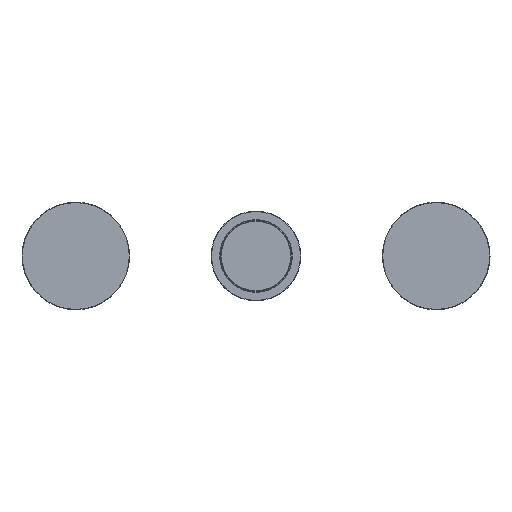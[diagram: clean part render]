
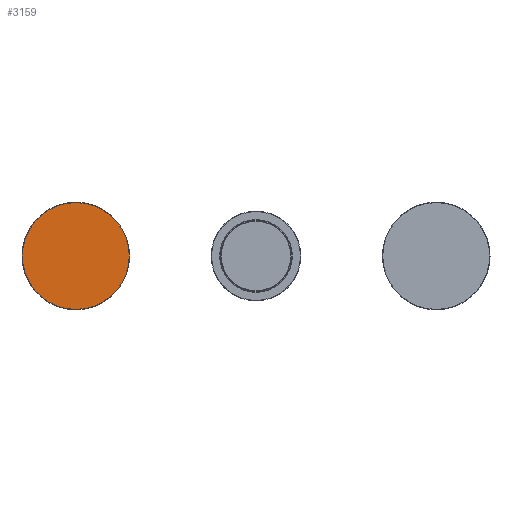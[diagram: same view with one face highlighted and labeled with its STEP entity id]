
A CAD part, front view. The second image highlights one B-rep face of the part: STEP entity #3159.
In plain terms, the highlighted planar face has unit normal (0, -1, 0).
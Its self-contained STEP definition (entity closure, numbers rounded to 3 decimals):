
#1261=CARTESIAN_POINT('',(-100.,0.,0.));
#1262=DIRECTION('',(0.,-1.,0.));
#1263=DIRECTION('',(-1.,0.,0.));
#1264=AXIS2_PLACEMENT_3D('',#1261,#1262,#1263);
#1266=CARTESIAN_POINT('',(-100.,0.,0.));
#1267=DIRECTION('',(0.,-1.,0.));
#1268=DIRECTION('',(1.,0.,0.));
#1269=AXIS2_PLACEMENT_3D('',#1266,#1267,#1268);
#2358=CARTESIAN_POINT('',(-129.65,0.,0.));
#2359=CARTESIAN_POINT('',(-70.35,0.,0.));
#2360=VERTEX_POINT('',#2358);
#2361=VERTEX_POINT('',#2359);
#3149=CARTESIAN_POINT('',(0.,0.,0.));
#3150=DIRECTION('',(0.,1.,0.));
#3151=DIRECTION('',(0.,0.,1.));
#3152=AXIS2_PLACEMENT_3D('',#3149,#3150,#3151);
#3153=PLANE('',#3152);
#3154=ORIENTED_EDGE('',*,*,#3139,.F.);
#3156=ORIENTED_EDGE('',*,*,#3155,.F.);
#3157=EDGE_LOOP('',(#3154,#3156));
#3158=FACE_OUTER_BOUND('',#3157,.F.);
#3159=ADVANCED_FACE('',(#3158),#3153,.F.);
#1265=CIRCLE('',#1264,29.65);
#1270=CIRCLE('',#1269,29.65);
#3139=EDGE_CURVE('',#2360,#2361,#1265,.T.);
#3155=EDGE_CURVE('',#2361,#2360,#1270,.T.);
